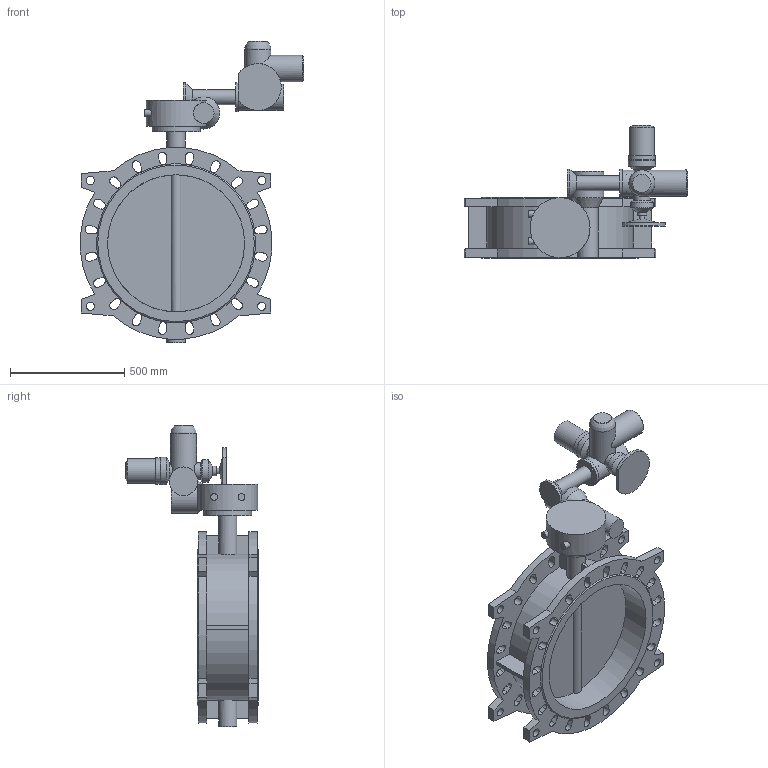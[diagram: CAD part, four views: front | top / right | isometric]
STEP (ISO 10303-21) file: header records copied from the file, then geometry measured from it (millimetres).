
FILE_DESCRIPTION(('STEP AP203'), '1');
FILE_NAME('Çàòâîð 021F.Y DN600 +ðåäóêòîð+ÌÒ903.À07-45', '', ('UNSPECIFIED'), ('UNSPECIFIED'), 'ASCON STEP Converter 1.6', 'ASCON Math Kernel', '');
FILE_SCHEMA(('CONFIG_CONTROL_DESIGN'));
Length unit declared in the file: millimetre
Bounding box: 976.65 x 580.5 x 1319 mm (x, y, z)
Volume: 53655677.1 mm3; surface area: 3815140.4 mm2
Topology: 1 solids, 1 shells, 333 faces, 951 edges, 614 vertices
Faces by surface type: plane 172, cylinder 147, cone 13, torus 1
Full cylindrical faces by diameter (mm): 8.5 x4, 12 x4, 17.5 x4, 22 x4, 24 x1, 30 x2, 36 x8, 42 x1, 65 x1, 66 x1, 72 x1, 80 x3, 90 x1, 100 x1, 108 x1, 114 x1, 115 x1, 116 x2, 119 x1, 125 x2, 140 x1, 210 x1, 262 x1, 600 x2
Entity records: 16024 total; most frequent: CARTESIAN_POINT 4471, DIRECTION 1870, ORIENTED_EDGE 1742, EDGE_CURVE 871, AXIS2_PLACEMENT_3D 700, VERTEX_POINT 606, EDGE_LOOP 527, LINE 470
